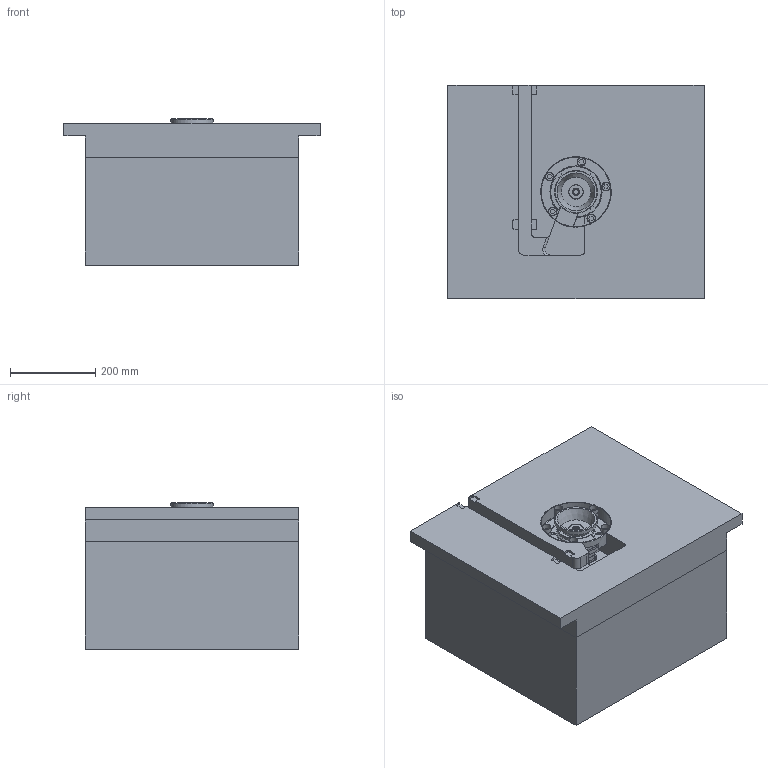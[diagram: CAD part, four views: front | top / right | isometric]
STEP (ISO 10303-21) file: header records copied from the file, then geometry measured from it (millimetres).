
FILE_DESCRIPTION( ( 'STEP AP214' ), '1' );
FILE_NAME( 'S:/PROIECTE_YUDO_2009_dupa_1.07.2009/PROIECTE YUDO 3D 01.07.2009/SAS/YUEU09-SAS42VC290_6/YUEU09-SAS42VC290.step', '2009-10-13T11:41:15', ( ' ' ), ( ' ' ), 'XStep 1.0', ' ', ' ' );
FILE_SCHEMA( ( 'automotive_design' ) );
Length unit declared in the file: millimetre
Products named in the file (26): 1; 2; 3; 4; 5; 6; 7; 8; 9; 10; 11; 12; 13; 14; 15; 16; 17; 18; 19; 20; 21; 22; 23; 24; 25; 26
Bounding box: 600 x 500 x 342.5 mm (x, y, z)
Volume: 83477107.1 mm3; surface area: 2142168.7 mm2
Topology: 26 solids, 26 shells, 637 faces, 1401 edges, 923 vertices
Faces by surface type: plane 358, cylinder 200, cone 65, torus 11, bspline 3
Full cylindrical faces by diameter (mm): 2.5 x2, 3.6 x2, 5.34 x8, 5.35 x16, 6 x18, 7 x12, 10 x10, 10.5 x1, 11.34 x5, 11.35 x10, 12 x5, 12.5 x1, 13 x5, 14 x5, 19 x5, 20 x5, 28 x1, 33 x2, 36 x1, 39 x1, 42 x4, 51.4 x1, 57 x1, 58 x2, 85 x1, 100 x1, 119 x4, 120 x4, 165 x1
Entity records: 21866 total; most frequent: CARTESIAN_POINT 3037, DIRECTION 2913, ORIENTED_EDGE 2282, AXIS2_PLACEMENT_3D 1151, EDGE_CURVE 1141, EDGE_LOOP 965, VERTEX_POINT 873, FACE_OUTER_BOUND 783
